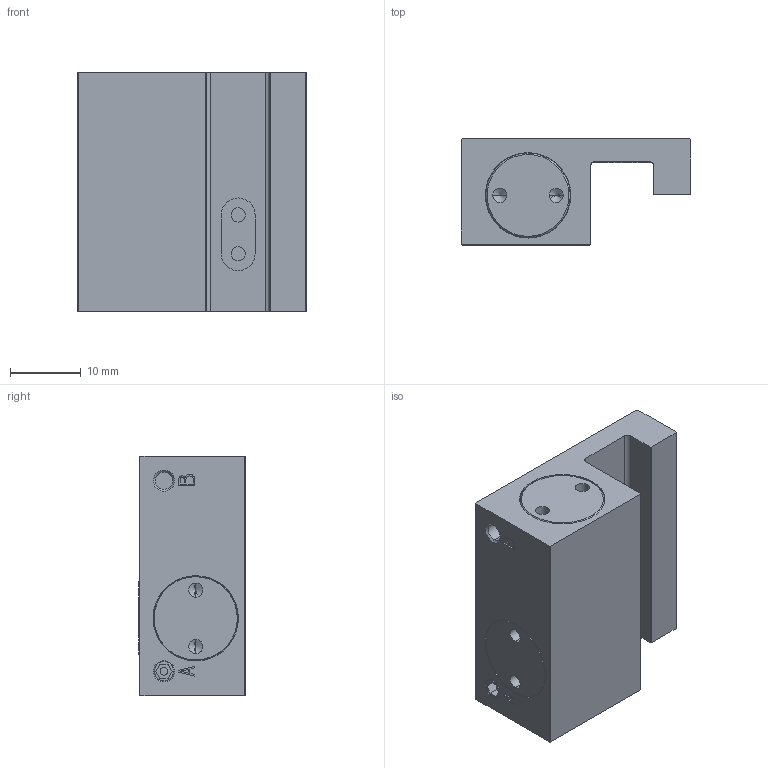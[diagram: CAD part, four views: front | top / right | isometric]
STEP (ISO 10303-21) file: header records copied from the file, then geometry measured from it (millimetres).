
FILE_DESCRIPTION( ( '' ), '1' );
FILE_NAME( 'E:/04 嬴檜蠱滌/0404 ZIMMER/040414 ZIMMER CAD download/MCP/MCP0912D---.stp', '2020-04-16T10:02:05', ( '' ), ( '' ), ' ', ' ', ' ' );
FILE_SCHEMA( ( 'automotive_design' ) );
Length unit declared in the file: millimetre
Products named in the file (1): 1
Bounding box: 32.5 x 15.05 x 34 mm (x, y, z)
Volume: 11651.9 mm3; surface area: 4624.7 mm2
Topology: 1 solids, 1 shells, 119 faces, 280 edges, 176 vertices
Faces by surface type: plane 63, cylinder 34, cone 22
Entity records: 6558 total; most frequent: DIRECTION 596, STYLED_ITEM 568, PRESENTATION_STYLE_ASSIGNMENT 568, CARTESIAN_POINT 568, COLOUR_RGB 568, ORIENTED_EDGE 544, EDGE_CURVE 272, CURVE_STYLE 272
